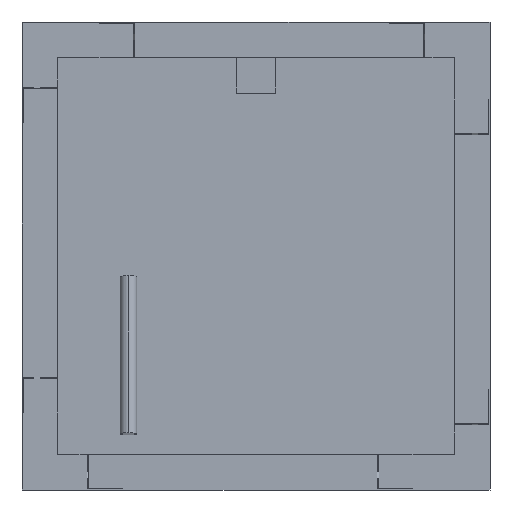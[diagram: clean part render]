
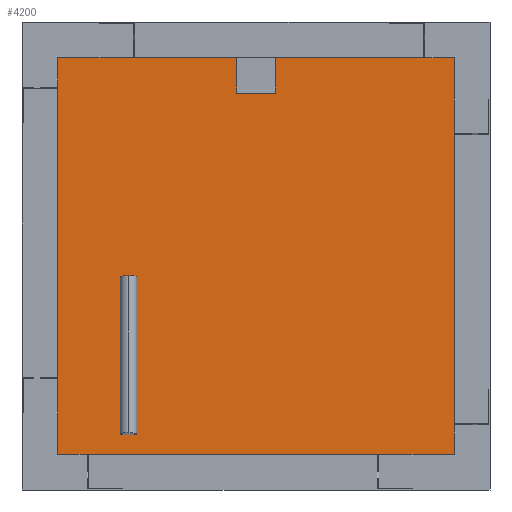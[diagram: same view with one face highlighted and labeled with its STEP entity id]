
A CAD part, front view. The second image highlights one B-rep face of the part: STEP entity #4200.
In plain terms, the highlighted planar face has unit normal (0, -1, 0).
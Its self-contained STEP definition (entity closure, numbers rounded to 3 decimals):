
#3969=DIRECTION('',(0.,0.,-1.));
#3970=VECTOR('',#3969,766.);
#3971=CARTESIAN_POINT('',(-383.,-2.,385.5));
#3972=LINE('',#3971,#3970);
#3973=DIRECTION('',(-1.,0.,0.));
#3974=VECTOR('',#3973,766.);
#3975=CARTESIAN_POINT('',(383.,-2.,385.5));
#3976=LINE('',#3975,#3974);
#3977=DIRECTION('',(0.,0.,1.));
#3978=VECTOR('',#3977,766.);
#3979=CARTESIAN_POINT('',(383.,-2.,-380.5));
#3980=LINE('',#3979,#3978);
#3981=DIRECTION('',(1.,0.,0.));
#3982=VECTOR('',#3981,766.);
#3983=CARTESIAN_POINT('',(-383.,-2.,-380.5));
#3984=LINE('',#3983,#3982);
#3985=CARTESIAN_POINT('',(0.,-2.,305.));
#3986=DIRECTION('',(0.,1.,0.));
#3987=DIRECTION('',(-1.,0.,0.));
#3988=AXIS2_PLACEMENT_3D('',#3985,#3986,#3987);
#3990=CARTESIAN_POINT('',(0.,-2.,305.));
#3991=DIRECTION('',(0.,1.,0.));
#3992=DIRECTION('',(1.,0.,0.));
#3993=AXIS2_PLACEMENT_3D('',#3990,#3991,#3992);
#4023=CARTESIAN_POINT('',(-17.75,-2.,305.));
#4024=CARTESIAN_POINT('',(17.75,-2.,305.));
#4025=VERTEX_POINT('',#4023);
#4026=VERTEX_POINT('',#4024);
#4043=CARTESIAN_POINT('',(-383.,-2.,385.5));
#4044=CARTESIAN_POINT('',(-383.,-2.,-380.5));
#4045=VERTEX_POINT('',#4043);
#4046=VERTEX_POINT('',#4044);
#4047=CARTESIAN_POINT('',(383.,-2.,-380.5));
#4048=VERTEX_POINT('',#4047);
#4049=CARTESIAN_POINT('',(383.,-2.,385.5));
#4050=VERTEX_POINT('',#4049);
#4181=CARTESIAN_POINT('',(0.,-2.,0.));
#4182=DIRECTION('',(0.,1.,0.));
#4183=DIRECTION('',(0.,0.,-1.));
#4184=AXIS2_PLACEMENT_3D('',#4181,#4182,#4183);
#4185=PLANE('',#4184);
#4186=ORIENTED_EDGE('',*,*,#4171,.F.);
#4188=ORIENTED_EDGE('',*,*,#4187,.F.);
#4190=ORIENTED_EDGE('',*,*,#4189,.F.);
#4192=ORIENTED_EDGE('',*,*,#4191,.F.);
#4193=EDGE_LOOP('',(#4186,#4188,#4190,#4192));
#4194=FACE_OUTER_BOUND('',#4193,.F.);
#4195=ORIENTED_EDGE('',*,*,#4060,.F.);
#4197=ORIENTED_EDGE('',*,*,#4196,.F.);
#4198=EDGE_LOOP('',(#4195,#4197));
#4199=FACE_BOUND('',#4198,.F.);
#3989=CIRCLE('',#3988,17.75);
#3994=CIRCLE('',#3993,17.75);
#4060=EDGE_CURVE('',#4025,#4026,#3989,.T.);
#4171=EDGE_CURVE('',#4045,#4046,#3972,.T.);
#4187=EDGE_CURVE('',#4050,#4045,#3976,.T.);
#4189=EDGE_CURVE('',#4048,#4050,#3980,.T.);
#4191=EDGE_CURVE('',#4046,#4048,#3984,.T.);
#4196=EDGE_CURVE('',#4026,#4025,#3994,.T.);
#4200=ADVANCED_FACE('',(#4194,#4199),#4185,.F.);
